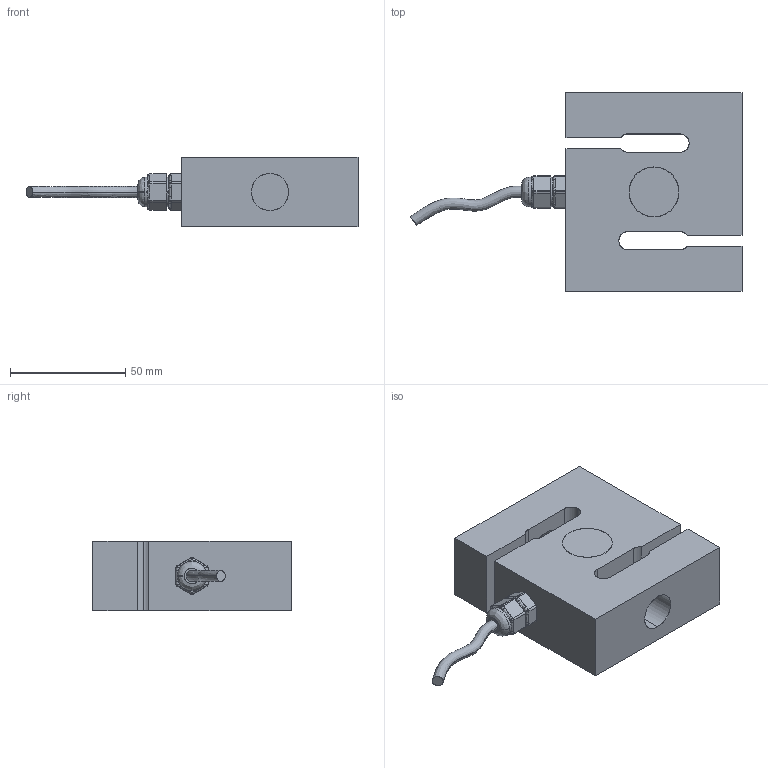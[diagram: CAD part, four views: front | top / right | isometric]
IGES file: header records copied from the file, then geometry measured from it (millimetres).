
Start section: SolidWorks IGES file using analytic representation for surfaces
Global section: file name: C:\Users\nasc01\Desktop\Assemblies for Conversion\Load_Sensor_HISTLB_4.4KLB\Load_Sensor_HISTLB_4.4KLB_3D\HI STLB-4.4KLB.IGS; native system: SolidWorks 2013; preprocessor: SolidWorks 2013; author: nasc01; date: 141014.091611; units: millimetre
Bounding box: 143.73 x 86 x 30 mm (x, y, z)
Surface area: 34935.2 mm2 (no closed solid volume)
Topology: 0 solids, 0 shells, 131 faces, 1312 edges, 1312 vertices
Faces by surface type: revolution 69, bspline 62
